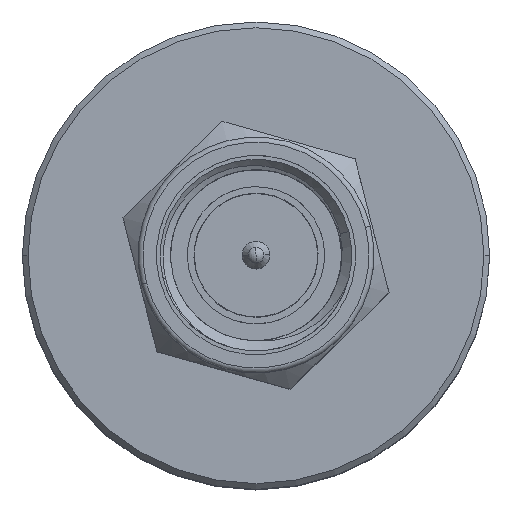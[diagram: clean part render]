
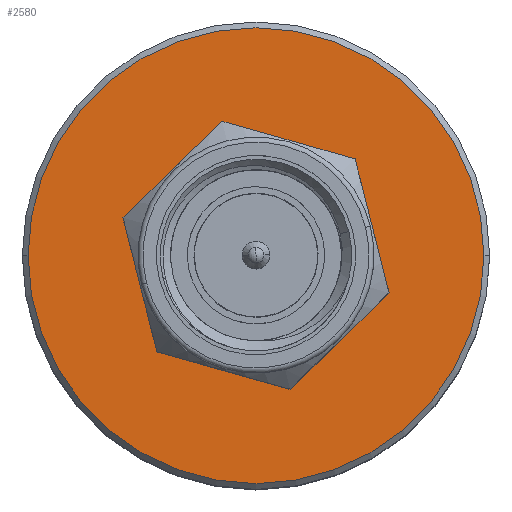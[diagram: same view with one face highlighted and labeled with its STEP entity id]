
A CAD part, top view. The second image highlights one B-rep face of the part: STEP entity #2580.
In plain terms, the highlighted planar face has unit normal (0, 0, 1).
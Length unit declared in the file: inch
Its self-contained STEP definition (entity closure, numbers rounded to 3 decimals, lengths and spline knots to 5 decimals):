
#958 = DIRECTION ( 'NONE',  ( 0., 0., 1. ) ) ;
#1059 = VERTEX_POINT ( 'NONE', #7927 ) ;
#1276 = CARTESIAN_POINT ( 'NONE',  ( 0., 0., 0.48 ) ) ;
#2580 = ADVANCED_FACE ( 'NONE', ( #7964 ), #6372, .T. ) ;
#2755 = DIRECTION ( 'NONE',  ( 1., 0., 0. ) ) ;
#3489 = CARTESIAN_POINT ( 'NONE',  ( -0.2975, 0., 0.48 ) ) ;
#3699 = EDGE_CURVE ( 'NONE', #1059, #3913, #4883, .T. ) ;
#3895 = DIRECTION ( 'NONE',  ( 0., 0., 1. ) ) ;
#3913 = VERTEX_POINT ( 'NONE', #3489 ) ;
#4141 = AXIS2_PLACEMENT_3D ( 'NONE', #5325, #958, #6067 ) ;
#4883 = CIRCLE ( 'NONE', #8150, 0.2975 ) ;
#5184 = ORIENTED_EDGE ( 'NONE', *, *, #3699, .T. ) ;
#5309 = ORIENTED_EDGE ( 'NONE', *, *, #8451, .T. ) ;
#5325 = CARTESIAN_POINT ( 'NONE',  ( 0., 0., 0.48 ) ) ;
#6067 = DIRECTION ( 'NONE',  ( 1., 0., 0. ) ) ;
#6372 = PLANE ( 'NONE',  #8863 ) ;
#7110 = DIRECTION ( 'NONE',  ( 0., 0., 1. ) ) ;
#7316 = EDGE_LOOP ( 'NONE', ( #5309, #5184 ) ) ;
#7831 = CIRCLE ( 'NONE', #4141, 0.2975 ) ;
#7927 = CARTESIAN_POINT ( 'NONE',  ( 0.2975, 0., 0.48 ) ) ;
#7964 = FACE_OUTER_BOUND ( 'NONE', #7316, .T. ) ;
#8150 = AXIS2_PLACEMENT_3D ( 'NONE', #8238, #3895, #8961 ) ;
#8238 = CARTESIAN_POINT ( 'NONE',  ( 0., 0., 0.48 ) ) ;
#8451 = EDGE_CURVE ( 'NONE', #3913, #1059, #7831, .T. ) ;
#8863 = AXIS2_PLACEMENT_3D ( 'NONE', #1276, #7110, #2755 ) ;
#8961 = DIRECTION ( 'NONE',  ( 1., 0., 0. ) ) ;
